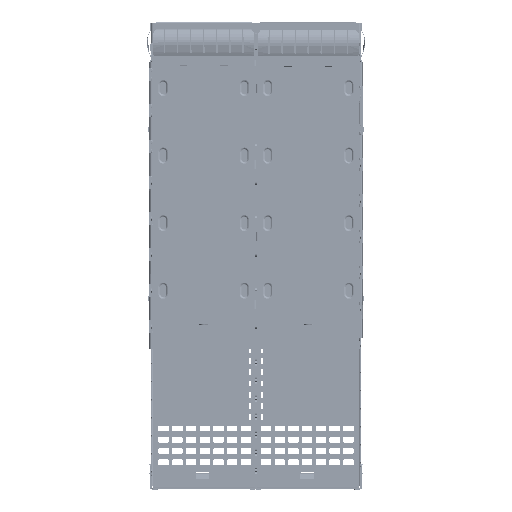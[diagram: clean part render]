
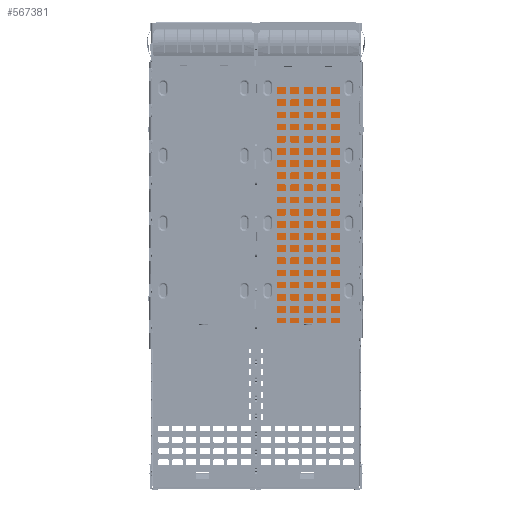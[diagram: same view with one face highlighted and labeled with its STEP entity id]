
A CAD part, front view. The second image highlights one B-rep face of the part: STEP entity #567381.
In plain terms, the highlighted planar face has unit normal (0, -1, 0).
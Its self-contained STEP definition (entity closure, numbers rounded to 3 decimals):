
#194321=CARTESIAN_POINT('',(106.466,16.854,
-57.85));
#194322=DIRECTION('',(0.,1.,0.));
#194323=DIRECTION('',(0.,0.,-1.));
#194324=AXIS2_PLACEMENT_3D('',#194321,#194322,#194323);
#194326=DIRECTION('',(0.,0.,-1.));
#194327=VECTOR('',#194326,52.823);
#194328=CARTESIAN_POINT('',(123.816,16.854,
-5.027));
#194329=LINE('',#194328,#194327);
#194330=CARTESIAN_POINT('',(123.316,16.854,
-57.85));
#194331=DIRECTION('',(0.,1.,0.));
#194332=DIRECTION('',(1.,0.,0.));
#194333=AXIS2_PLACEMENT_3D('',#194330,#194331,#194332);
#194335=DIRECTION('',(1.,0.,0.));
#194336=VECTOR('',#194335,16.85);
#194337=CARTESIAN_POINT('',(106.466,16.854,
-58.35));
#194338=LINE('',#194337,#194336);
#194360=DIRECTION('',(0.,0.,-1.));
#194361=VECTOR('',#194360,52.823);
#194362=CARTESIAN_POINT('',(105.966,16.854,
-5.027));
#194363=LINE('',#194362,#194361);
#194392=DIRECTION('',(-1.,0.,0.));
#194393=VECTOR('',#194392,17.85);
#194394=CARTESIAN_POINT('',(123.816,16.854,
-5.027));
#194395=LINE('',#194394,#194393);
#307386=CARTESIAN_POINT('',(105.966,16.854,
-5.027));
#307387=VERTEX_POINT('',#307386);
#307388=CARTESIAN_POINT('',(105.966,16.854,
-57.85));
#307389=VERTEX_POINT('',#307388);
#308294=CARTESIAN_POINT('',(123.316,16.854,
-58.35));
#308295=VERTEX_POINT('',#308294);
#308296=CARTESIAN_POINT('',(123.816,16.854,
-57.85));
#308297=VERTEX_POINT('',#308296);
#308298=CARTESIAN_POINT('',(106.466,16.854,
-58.35));
#308299=VERTEX_POINT('',#308298);
#308300=CARTESIAN_POINT('',(123.816,16.854,
-5.027));
#308301=VERTEX_POINT('',#308300);
#567364=CARTESIAN_POINT('',(105.966,16.854,
-5.027));
#567365=DIRECTION('',(0.,-1.,0.));
#567366=DIRECTION('',(0.,0.,-1.));
#567367=AXIS2_PLACEMENT_3D('',#567364,#567365,#567366);
#567368=PLANE('',#567367);
#567370=ORIENTED_EDGE('',*,*,#567369,.F.);
#567372=ORIENTED_EDGE('',*,*,#567371,.T.);
#567374=ORIENTED_EDGE('',*,*,#567373,.F.);
#567376=ORIENTED_EDGE('',*,*,#567375,.F.);
#567377=ORIENTED_EDGE('',*,*,#567354,.T.);
#567378=ORIENTED_EDGE('',*,*,#566738,.T.);
#567379=EDGE_LOOP('',(#567370,#567372,#567374,#567376,#567377,#567378));
#567380=FACE_OUTER_BOUND('',#567379,.F.);
#567381=ADVANCED_FACE('',(#567380),#567368,.T.);
#194325=CIRCLE('',#194324,0.5);
#194334=CIRCLE('',#194333,0.5);
#566738=EDGE_CURVE('',#308297,#308295,#194334,.T.);
#567354=EDGE_CURVE('',#308301,#308297,#194329,.T.);
#567369=EDGE_CURVE('',#308299,#308295,#194338,.T.);
#567371=EDGE_CURVE('',#308299,#307389,#194325,.T.);
#567373=EDGE_CURVE('',#307387,#307389,#194363,.T.);
#567375=EDGE_CURVE('',#308301,#307387,#194395,.T.);
